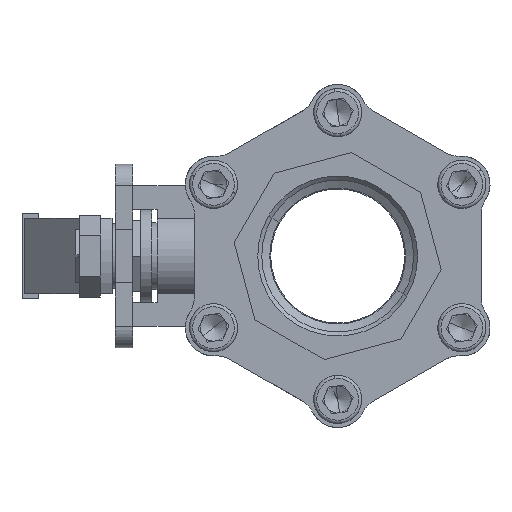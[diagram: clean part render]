
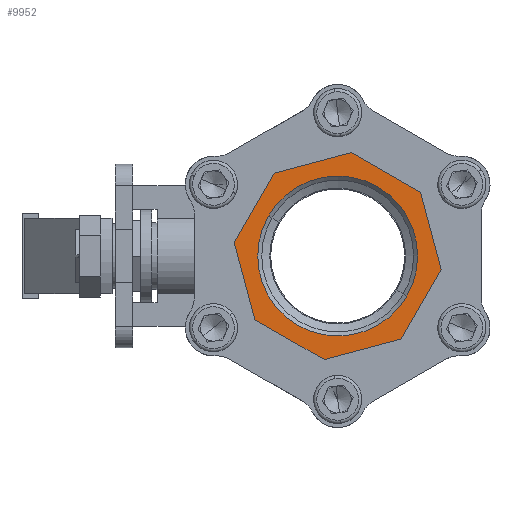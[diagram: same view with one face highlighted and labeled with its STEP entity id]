
A CAD part, left-side view. The second image highlights one B-rep face of the part: STEP entity #9952.
In plain terms, the highlighted planar face has unit normal (-1, 0, 0) as drawn and (1, 0, 0) by its records, which use the part's own axes.
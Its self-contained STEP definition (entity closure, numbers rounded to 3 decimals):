
#813 = CARTESIAN_POINT ( 'NONE',  ( 38., 0., 0. ) ) ;
#814 = DIRECTION ( 'NONE',  ( 1., 0., 0. ) ) ;
#815 = DIRECTION ( 'NONE',  ( 0., 0., -1. ) ) ;
#1056 = CARTESIAN_POINT ( 'NONE',  ( 38., -14.912, -36. ) ) ;
#1073 = CARTESIAN_POINT ( 'NONE',  ( 38., 36., -14.912 ) ) ;
#1076 = CARTESIAN_POINT ( 'NONE',  ( 38., 0., 29.835 ) ) ;
#1077 = CARTESIAN_POINT ( 'NONE',  ( 38., 0., -29.835 ) ) ;
#1099 = CARTESIAN_POINT ( 'NONE',  ( 38., -14.912, 36. ) ) ;
#1100 = CARTESIAN_POINT ( 'NONE',  ( 38., 36., 14.912 ) ) ;
#1101 = CARTESIAN_POINT ( 'NONE',  ( 38., 14.912, 36. ) ) ;
#1110 = CARTESIAN_POINT ( 'NONE',  ( 38., -36., 14.912 ) ) ;
#1141 = CARTESIAN_POINT ( 'NONE',  ( 38., 14.912, -36. ) ) ;
#1143 = CARTESIAN_POINT ( 'NONE',  ( 38., -36., -14.912 ) ) ;
#2130 = AXIS2_PLACEMENT_3D ( 'NONE', #2723, #2732, #2733 ) ;
#2723 = CARTESIAN_POINT ( 'NONE',  ( 38., 36., -36. ) ) ;
#2731 = PLANE ( 'NONE',  #2130 ) ;
#2732 = DIRECTION ( 'NONE',  ( 1., 0., 0. ) ) ;
#2733 = DIRECTION ( 'NONE',  ( 0., 0., -1. ) ) ;
#3245 = EDGE_CURVE ( 'NONE', #9225, #9252, #5222, .T. ) ;
#3247 = EDGE_CURVE ( 'NONE', #9208, #9298, #5226, .T. ) ;
#3249 = EDGE_CURVE ( 'NONE', #9298, #9225, #5230, .T. ) ;
#3251 = EDGE_CURVE ( 'NONE', #9252, #9253, #5234, .T. ) ;
#3253 = EDGE_CURVE ( 'NONE', #9253, #9251, #5238, .T. ) ;
#3255 = EDGE_CURVE ( 'NONE', #9251, #9262, #5242, .T. ) ;
#3257 = EDGE_CURVE ( 'NONE', #9262, #9300, #5246, .T. ) ;
#3262 = EDGE_CURVE ( 'NONE', #9300, #9208, #5256, .T. ) ;
#3264 = EDGE_CURVE ( 'NONE', #9229, #9228, #5260, .T. ) ;
#3355 = AXIS2_PLACEMENT_3D ( 'NONE', #8443, #8484, #8485 ) ;
#3639 = AXIS2_PLACEMENT_3D ( 'NONE', #813, #814, #815 ) ;
#4468 = FACE_BOUND ( 'NONE', #10194, .T. ) ;
#5222 = LINE ( 'NONE', #8444, #5223 ) ;
#5223 = VECTOR ( 'NONE', #8445, 1000. ) ;
#5226 = LINE ( 'NONE', #8448, #5227 ) ;
#5227 = VECTOR ( 'NONE', #8449, 1000. ) ;
#5230 = LINE ( 'NONE', #8452, #5231 ) ;
#5231 = VECTOR ( 'NONE', #8453, 1000. ) ;
#5234 = LINE ( 'NONE', #8456, #5235 ) ;
#5235 = VECTOR ( 'NONE', #8457, 1000. ) ;
#5238 = LINE ( 'NONE', #8460, #5239 ) ;
#5239 = VECTOR ( 'NONE', #8461, 1000. ) ;
#5242 = LINE ( 'NONE', #8464, #5243 ) ;
#5243 = VECTOR ( 'NONE', #8465, 1000. ) ;
#5246 = LINE ( 'NONE', #8468, #5247 ) ;
#5247 = VECTOR ( 'NONE', #8469, 1000. ) ;
#5256 = LINE ( 'NONE', #8478, #5257 ) ;
#5257 = VECTOR ( 'NONE', #8479, 1000. ) ;
#5260 = CIRCLE ( 'NONE', #3355, 29.835 ) ;
#5893 = ORIENTED_EDGE ( 'NONE', *, *, #3264, .F. ) ;
#5894 = ORIENTED_EDGE ( 'NONE', *, *, #8164, .F. ) ;
#5895 = ORIENTED_EDGE ( 'NONE', *, *, #3247, .T. ) ;
#5896 = ORIENTED_EDGE ( 'NONE', *, *, #3249, .T. ) ;
#5897 = ORIENTED_EDGE ( 'NONE', *, *, #3245, .T. ) ;
#5898 = ORIENTED_EDGE ( 'NONE', *, *, #3251, .T. ) ;
#5899 = ORIENTED_EDGE ( 'NONE', *, *, #3253, .T. ) ;
#5900 = ORIENTED_EDGE ( 'NONE', *, *, #3255, .T. ) ;
#5901 = ORIENTED_EDGE ( 'NONE', *, *, #3257, .T. ) ;
#5902 = ORIENTED_EDGE ( 'NONE', *, *, #3262, .T. ) ;
#7097 = CIRCLE ( 'NONE', #3639, 29.835 ) ;
#7632 = FACE_OUTER_BOUND ( 'NONE', #10196, .T. ) ;
#8164 = EDGE_CURVE ( 'NONE', #9228, #9229, #7097, .T. ) ;
#8443 = CARTESIAN_POINT ( 'NONE',  ( 38., 0., 0. ) ) ;
#8444 = CARTESIAN_POINT ( 'NONE',  ( 38., 36., -14.912 ) ) ;
#8445 = DIRECTION ( 'NONE',  ( 0., 0., 1. ) ) ;
#8448 = CARTESIAN_POINT ( 'NONE',  ( 38., -14.912, -36. ) ) ;
#8449 = DIRECTION ( 'NONE',  ( 0., 1., 0. ) ) ;
#8452 = CARTESIAN_POINT ( 'NONE',  ( 38., 14.912, -36. ) ) ;
#8453 = DIRECTION ( 'NONE',  ( 0., 0.707, 0.707 ) ) ;
#8456 = CARTESIAN_POINT ( 'NONE',  ( 38., 36., 14.912 ) ) ;
#8457 = DIRECTION ( 'NONE',  ( 0., -0.707, 0.707 ) ) ;
#8460 = CARTESIAN_POINT ( 'NONE',  ( 38., 14.912, 36. ) ) ;
#8461 = DIRECTION ( 'NONE',  ( 0., -1., 0. ) ) ;
#8464 = CARTESIAN_POINT ( 'NONE',  ( 38., -14.912, 36. ) ) ;
#8465 = DIRECTION ( 'NONE',  ( 0., -0.707, -0.707 ) ) ;
#8468 = CARTESIAN_POINT ( 'NONE',  ( 38., -36., 14.912 ) ) ;
#8469 = DIRECTION ( 'NONE',  ( 0., 0., -1. ) ) ;
#8478 = CARTESIAN_POINT ( 'NONE',  ( 38., -36., -14.912 ) ) ;
#8479 = DIRECTION ( 'NONE',  ( 0., 0.707, -0.707 ) ) ;
#8484 = DIRECTION ( 'NONE',  ( 1., 0., 0. ) ) ;
#8485 = DIRECTION ( 'NONE',  ( 0., 0., -1. ) ) ;
#9208 = VERTEX_POINT ( 'NONE', #1056 ) ;
#9225 = VERTEX_POINT ( 'NONE', #1073 ) ;
#9228 = VERTEX_POINT ( 'NONE', #1076 ) ;
#9229 = VERTEX_POINT ( 'NONE', #1077 ) ;
#9251 = VERTEX_POINT ( 'NONE', #1099 ) ;
#9252 = VERTEX_POINT ( 'NONE', #1100 ) ;
#9253 = VERTEX_POINT ( 'NONE', #1101 ) ;
#9262 = VERTEX_POINT ( 'NONE', #1110 ) ;
#9298 = VERTEX_POINT ( 'NONE', #1141 ) ;
#9300 = VERTEX_POINT ( 'NONE', #1143 ) ;
#9952 = ADVANCED_FACE ( 'NONE', ( #4468, #7632 ), #2731, .T. ) ;
#10194 = EDGE_LOOP ( 'NONE', ( #5893, #5894 ) ) ;
#10196 = EDGE_LOOP ( 'NONE', ( #5895, #5896, #5897, #5898, #5899, #5900, #5901, #5902 ) ) ;
